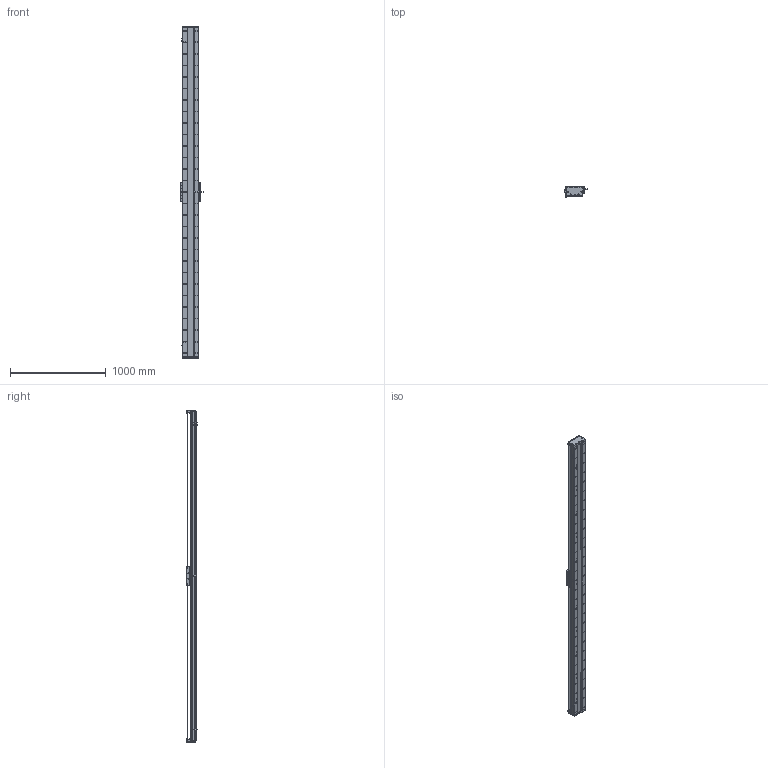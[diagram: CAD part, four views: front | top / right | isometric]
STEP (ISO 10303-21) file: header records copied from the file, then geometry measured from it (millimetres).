
FILE_DESCRIPTION (( 'STEP AP203' ), '1' );
FILE_NAME ('DA-C165-C2-T3180-C010-0.2 直线电机.STEP', '2023-05-11T07:56:02', ( '微软用户' ), ( '微软中国' ), 'SwSTEP 2.0', 'SolidWorks 2019', '' );
FILE_SCHEMA (( 'CONFIG_CONTROL_DESIGN' ));
Length unit declared in the file: millimetre
Products named in the file (18): 葩璃 CKM01-W075-TRL^DA-C165-C2-T-C010-0.2-N 眻盄萇儂; IU-CU165-L-00 菁釱_L3420; 复件 DA165-GD-1860-002-00 钢带盖板^复件 CU165钢带组件_DA-C165-C2-T-C010-0.2-N 直线电机; 复件 DA165-GDYK-00 钢带压块^复件 CU165钢带组件_DA-C165-C2-T-C010-0.2-N 直线电机; 珨极趙賑雄怢啣wf-C2; 复件 CU165钢带组件^DA-C165-C2-T-C010-0.2-N 直线电机; 复件 DMA-010-0.2 读数头^DA-C165-C2-T-C010-0.2-N 直线电机; 复件 DA165-GD-DG-H-00 端盖^复件 CU165钢带组件_DA-C165-C2-T-C010-0.2-N 直线电机; 复件 CKM02-W075-C1C2-TP-3.0 一体电机-C2^DA-C165-C2-T-C010-0.2-N 直线电机; 复件 XD-U-02L 磁栅尺^DA-C165-C2-T-C010-0.2-N 直线电机_T; 葩璃 DA95-GT-T-00^IU-CU165-L 菁釱絳寢_T; 复件 六角薄螺母 M3^DA-C165-C2-T-C010-0.2-N 直线电机_GB_FASTENER_NUT_STNAB M3-C; 复件 DA95-HXJ-00 缓冲橡胶^DA-C165-C2-T-C010-0.2-N 直线电机; IU-CU165-L 菁釱絳寢; DA-C165-C2-T3180-C010-0.2 眻盄萇儂; 葩璃 PM-T45^DA-C165-C2-T-C010-0.2-N 眻盄萇儂; 复件 DA165-GDLK-00 钢带拉块^复件 CU165钢带组件_DA-C165-C2-T-C010-0.2-N 直线电机; 复件 DA165-GYP-00 光电感应片^DA-C165-C2-T-C010-0.2-N 直线电机
Assembly tree (33 placements, depth 3):
  DA-C165-C2-T3180-C010-0.2 眻盄萇儂
    IU-CU165-L 菁釱絳寢
      IU-CU165-L-00 菁釱_L3420
      葩璃 DA95-GT-T-00^IU-CU165-L 菁釱絳寢_T  x4
    复件 XD-U-02L 磁栅尺^DA-C165-C2-T-C010-0.2-N 直线电机_T
    葩璃 PM-T45^DA-C165-C2-T-C010-0.2-N 眻盄萇儂  x3
    葩璃 CKM01-W075-TRL^DA-C165-C2-T-C010-0.2-N 眻盄萇儂
    复件 CU165钢带组件^DA-C165-C2-T-C010-0.2-N 直线电机
      复件 DA165-GD-DG-H-00 端盖^复件 CU165钢带组件_DA-C165-C2-T-C010-0.2-N 直线电机  x2
      复件 DA165-GDYK-00 钢带压块^复件 CU165钢带组件_DA-C165-C2-T-C010-0.2-N 直线电机  x2
      复件 DA165-GD-1860-002-00 钢带盖板^复件 CU165钢带组件_DA-C165-C2-T-C010-0.2-N 直线电机
      复件 DA165-GDLK-00 钢带拉块^复件 CU165钢带组件_DA-C165-C2-T-C010-0.2-N 直线电机  x2
    复件 DA95-HXJ-00 缓冲橡胶^DA-C165-C2-T-C010-0.2-N 直线电机  x4
    复件 DA165-GYP-00 光电感应片^DA-C165-C2-T-C010-0.2-N 直线电机
    复件 DMA-010-0.2 读数头^DA-C165-C2-T-C010-0.2-N 直线电机
    复件 CKM02-W075-C1C2-TP-3.0 一体电机-C2^DA-C165-C2-T-C010-0.2-N 直线电机
    复件 六角薄螺母 M3^DA-C165-C2-T-C010-0.2-N 直线电机_GB_FASTENER_NUT_STNAB M3-C  x6
    珨极趙賑雄怢啣wf-C2
Bounding box: 233 x 111.45 x 3460 mm (x, y, z)
Volume: 18573003.2 mm3; surface area: 5679304.8 mm2
Topology: 70 solids, 70 shells, 4311 faces, 13027 edges, 8379 vertices
Faces by surface type: cylinder 2701, plane 1130, cone 430, torus 46, sphere 4
Entity records: 152863 total; most frequent: CARTESIAN_POINT 43447, ORIENTED_EDGE 23226, DIRECTION 21821, EDGE_CURVE 11613, AXIS2_PLACEMENT_3D 8383, VERTEX_POINT 7615, EDGE_LOOP 5228, LINE 5055
